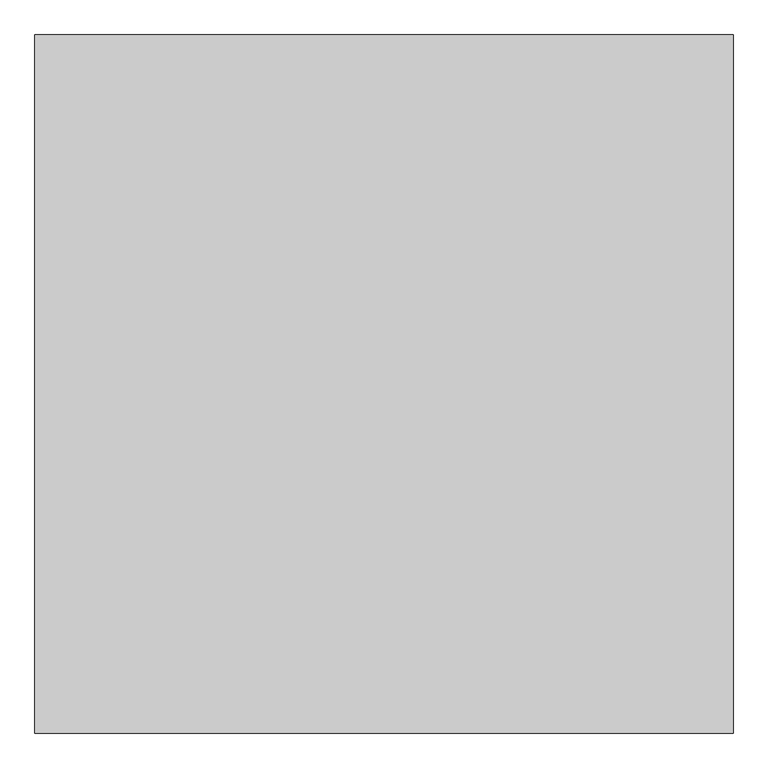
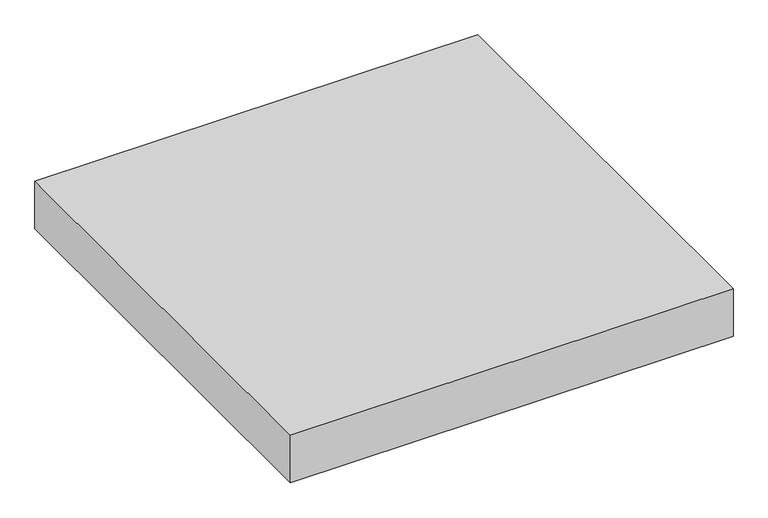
"""IFC4 building model written with IfcOpenShell, lengths in millimetres: proxy geometry, 機械基礎 : 機械基礎."""

from ifc_helpers import new_model, si_unit, origin, origin_with_axes, place, context, project, spatial, polyline, outline, extrude, source, transform, mapped, element, save


def specialty_equipment_81c4c9b8(model_context):
    return source(origin(), model_context, "Body", "SweptSolid", [
        extrude(outline(polyline([(1325.0, -1325.0), (-1325.0, -1325.0), (-1325.0, 1325.0), (1325.0, 1325.0), (1325.0, -1325.0)])), origin_with_axes(), (0.0, 0.0, 1.0), 300.0),
    ])


if __name__ == "__main__":
    model = new_model("IFC4")
    model_context = context("Model", 3, world=origin())
    ifc_project = project(units=[si_unit("LENGTHUNIT", "METRE", prefix="MILLI")], contexts=[model_context])
    site = spatial("IfcSite", under=ifc_project)
    building = spatial("IfcBuilding", under=site)
    placement = place(None, origin())
    specialty_equipment_shape = specialty_equipment_81c4c9b8(model_context)
    element("IfcBuildingElementProxy", 1, Name="機械基礎 : 機械基礎", ObjectType="機械基礎 : 機械基礎", at=placement, inside=building, context=model_context, shape_type="MappedRepresentation", body=[
        mapped(specialty_equipment_shape, transform((0.0, 0.0, 0.0), x_axis=(1.0, 0.0, 0.0), y_axis=(0.0, 1.0, 0.0), z_axis=(0.0, 0.0, 1.0))),
    ])
    save(model, "model.ifc")
